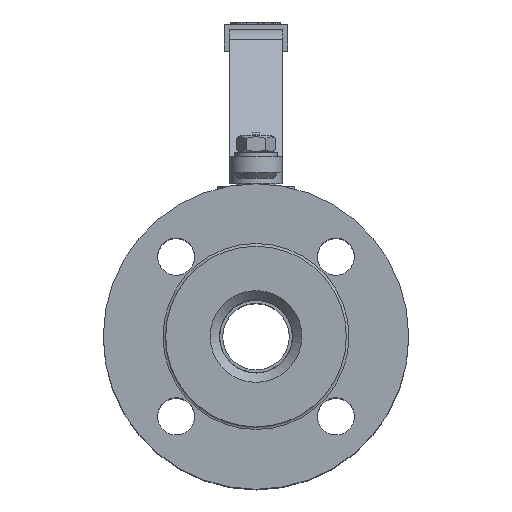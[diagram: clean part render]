
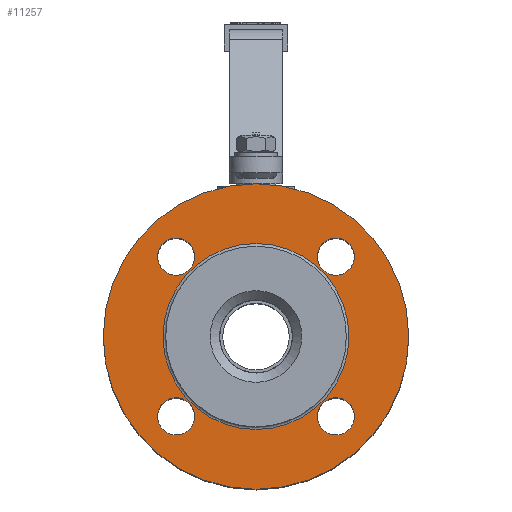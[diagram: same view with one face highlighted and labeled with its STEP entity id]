
A CAD part, top view. The second image highlights one B-rep face of the part: STEP entity #11257.
In plain terms, the highlighted planar face has unit normal (0, 0, 1).
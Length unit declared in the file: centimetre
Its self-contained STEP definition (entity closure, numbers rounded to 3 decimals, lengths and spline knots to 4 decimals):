
#2718=PLANE('',#12155);
#2918=FACE_BOUND('',#4319,.T.);
#2919=FACE_BOUND('',#4320,.T.);
#2920=FACE_BOUND('',#4321,.T.);
#2921=FACE_BOUND('',#4322,.T.);
#2922=FACE_BOUND('',#4323,.T.);
#3522=FACE_OUTER_BOUND('',#4318,.T.);
#4318=EDGE_LOOP('',(#9917));
#4319=EDGE_LOOP('',(#9918));
#4320=EDGE_LOOP('',(#9919));
#4321=EDGE_LOOP('',(#9920));
#4322=EDGE_LOOP('',(#9921));
#4323=EDGE_LOOP('',(#9922));
#4633=CIRCLE('',#12153,5.75);
#4635=CIRCLE('',#12156,0.7);
#4636=CIRCLE('',#12157,0.7);
#4637=CIRCLE('',#12158,0.7);
#4638=CIRCLE('',#12159,0.7);
#4639=CIRCLE('',#12160,3.5);
#5618=VERTEX_POINT('',#18984);
#5620=VERTEX_POINT('',#18989);
#5621=VERTEX_POINT('',#18991);
#5622=VERTEX_POINT('',#18993);
#5623=VERTEX_POINT('',#18995);
#5624=VERTEX_POINT('',#18997);
#7043=EDGE_CURVE('',#5618,#5618,#4633,.T.);
#7045=EDGE_CURVE('',#5620,#5620,#4635,.T.);
#7046=EDGE_CURVE('',#5621,#5621,#4636,.T.);
#7047=EDGE_CURVE('',#5622,#5622,#4637,.T.);
#7048=EDGE_CURVE('',#5623,#5623,#4638,.T.);
#7049=EDGE_CURVE('',#5624,#5624,#4639,.T.);
#9917=ORIENTED_EDGE('',*,*,#7043,.F.);
#9918=ORIENTED_EDGE('',*,*,#7045,.T.);
#9919=ORIENTED_EDGE('',*,*,#7046,.T.);
#9920=ORIENTED_EDGE('',*,*,#7047,.T.);
#9921=ORIENTED_EDGE('',*,*,#7048,.T.);
#9922=ORIENTED_EDGE('',*,*,#7049,.F.);
#11257=ADVANCED_FACE('',(#3522,#2918,#2919,#2920,#2921,#2922),#2718,.F.);
#12153=AXIS2_PLACEMENT_3D('',#18985,#14980,#14981);
#12155=AXIS2_PLACEMENT_3D('',#18988,#14984,#14985);
#12156=AXIS2_PLACEMENT_3D('',#18990,#14986,#14987);
#12157=AXIS2_PLACEMENT_3D('',#18992,#14988,#14989);
#12158=AXIS2_PLACEMENT_3D('',#18994,#14990,#14991);
#12159=AXIS2_PLACEMENT_3D('',#18996,#14992,#14993);
#12160=AXIS2_PLACEMENT_3D('',#18998,#14994,#14995);
#14980=DIRECTION('center_axis',(0.,0.,
-1.));
#14981=DIRECTION('ref_axis',(0.,-1.,0.));
#14984=DIRECTION('center_axis',(0.,0.,
-1.));
#14985=DIRECTION('ref_axis',(0.,-1.,0.));
#14986=DIRECTION('center_axis',(0.,0.,
-1.));
#14987=DIRECTION('ref_axis',(1.,0.,0.));
#14988=DIRECTION('center_axis',(0.,0.,
-1.));
#14989=DIRECTION('ref_axis',(0.,-1.,0.));
#14990=DIRECTION('center_axis',(0.,0.,
-1.));
#14991=DIRECTION('ref_axis',(-1.,0.,0.));
#14992=DIRECTION('center_axis',(0.,0.,
-1.));
#14993=DIRECTION('ref_axis',(0.,1.,0.));
#14994=DIRECTION('center_axis',(0.,0.,
1.));
#14995=DIRECTION('ref_axis',(0.,-1.,0.));
#18984=CARTESIAN_POINT('',(0.3314,10.1493,15.4587));
#18985=CARTESIAN_POINT('Origin',(0.3314,4.3993,15.4587));
#18988=CARTESIAN_POINT('Origin',(0.3314,4.3993,15.4587));
#18989=CARTESIAN_POINT('',(4.0366,7.4045,15.4587));
#18990=CARTESIAN_POINT('Origin',(3.3366,7.4045,15.4587));
#18991=CARTESIAN_POINT('',(3.3366,0.6941,15.4587));
#18992=CARTESIAN_POINT('Origin',(3.3366,1.3941,15.4587));
#18993=CARTESIAN_POINT('',(-3.3738,1.3941,15.4587));
#18994=CARTESIAN_POINT('Origin',(-2.6738,1.3941,15.4587));
#18995=CARTESIAN_POINT('',(-2.6738,8.1045,15.4587));
#18996=CARTESIAN_POINT('Origin',(-2.6738,7.4045,15.4587));
#18997=CARTESIAN_POINT('',(0.3314,7.8993,15.4587));
#18998=CARTESIAN_POINT('Origin',(0.3314,4.3993,15.4587));
